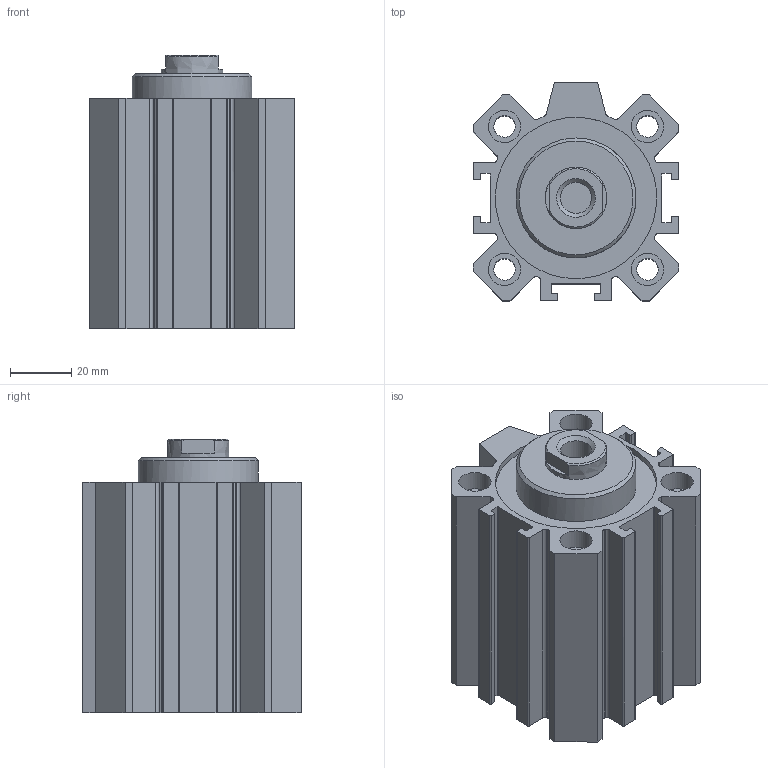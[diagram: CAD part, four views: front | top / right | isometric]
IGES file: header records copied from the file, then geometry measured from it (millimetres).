
Global section: file name: 1511_50_0035; native system: Autodesk Inventor 2014; preprocessor: unknown; author: A. Manieri; date: 20160824.134027; units: millimetre
Bounding box: 67 x 71 x 89 mm (x, y, z)
Volume: 210371.1 mm3; surface area: 68093.5 mm2
Topology: 2 solids, 2 shells, 165 faces, 443 edges, 300 vertices
Faces by surface type: bspline 165
